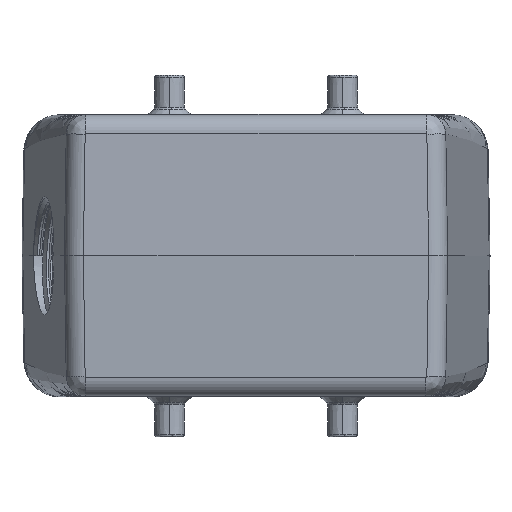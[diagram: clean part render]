
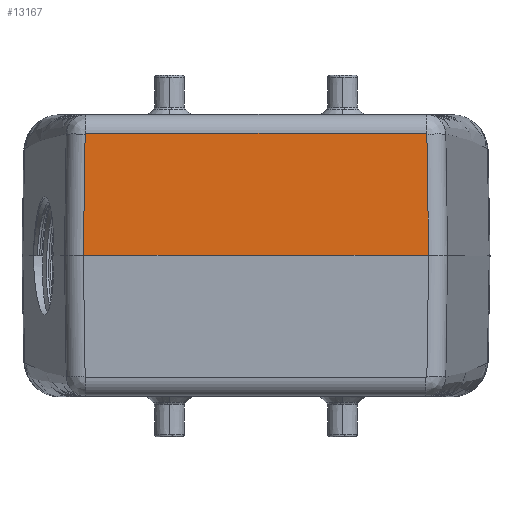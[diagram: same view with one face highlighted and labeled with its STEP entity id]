
A CAD part, top view. The second image highlights one B-rep face of the part: STEP entity #13167.
In plain terms, the highlighted planar face has unit normal (0, 0.018, 1).
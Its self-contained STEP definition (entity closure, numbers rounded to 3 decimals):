
#429 = VERTEX_POINT ( 'NONE', #13925 ) ;
#1517 = EDGE_CURVE ( 'NONE', #14905, #2759, #5949, .T. ) ;
#2146 = LINE ( 'NONE', #25613, #14192 ) ;
#2731 = CARTESIAN_POINT ( 'NONE',  ( 26.557, 19.052, 59.667 ) ) ;
#2759 = VERTEX_POINT ( 'NONE', #3772 ) ;
#3320 = DIRECTION ( 'NONE',  ( 0., 0.017, 1. ) ) ;
#3772 = CARTESIAN_POINT ( 'NONE',  ( 10.25, 0., 60. ) ) ;
#4007 = EDGE_CURVE ( 'NONE', #24936, #14988, #15977, .T. ) ;
#4595 = CARTESIAN_POINT ( 'NONE',  ( 26.521, 19.052, 59.667 ) ) ;
#4718 = EDGE_CURVE ( 'NONE', #429, #26034, #2146, .T. ) ;
#5235 = ORIENTED_EDGE ( 'NONE', *, *, #23714, .T. ) ;
#5316 = ORIENTED_EDGE ( 'NONE', *, *, #4007, .T. ) ;
#5949 = LINE ( 'NONE', #12625, #23378 ) ;
#6809 = CARTESIAN_POINT ( 'NONE',  ( 26.653, 18.923, 59.67 ) ) ;
#7086 = EDGE_CURVE ( 'NONE', #14988, #18813, #16962, .T. ) ;
#7542 = B_SPLINE_CURVE_WITH_KNOTS ( 'NONE', 3,
 ( #14595, #20675, #24403, #22466 ),
 .UNSPECIFIED., .F., .F.,
 ( 4, 4 ),
 ( 0., 1. ),
 .UNSPECIFIED. ) ;
#7599 = CARTESIAN_POINT ( 'NONE',  ( -26.589, 19.039, 59.668 ) ) ;
#7764 = CARTESIAN_POINT ( 'NONE',  ( -26.555, 19.052, 59.667 ) ) ;
#8321 = FACE_OUTER_BOUND ( 'NONE', #14455, .T. ) ;
#8432 = DIRECTION ( 'NONE',  ( 1., 0., 0. ) ) ;
#9271 = ORIENTED_EDGE ( 'NONE', *, *, #1517, .F. ) ;
#10613 = B_SPLINE_CURVE_WITH_KNOTS ( 'NONE', 3,
 ( #25720, #15633, #19674, #7599, #7764, #25805 ),
 .UNSPECIFIED., .F., .F.,
 ( 4, 2, 4 ),
 ( 0., 0.5, 1. ),
 .UNSPECIFIED. ) ;
#11169 = AXIS2_PLACEMENT_3D ( 'NONE', #17298, #3320, #17558 ) ;
#11570 = VERTEX_POINT ( 'NONE', #25679 ) ;
#11632 = PLANE ( 'NONE',  #11169 ) ;
#12177 = CARTESIAN_POINT ( 'NONE',  ( -26.838, 6.308, 59.89 ) ) ;
#12191 = LINE ( 'NONE', #14526, #12495 ) ;
#12495 = VECTOR ( 'NONE', #8432, 1000. ) ;
#12625 = CARTESIAN_POINT ( 'NONE',  ( -76.447, 0., 60. ) ) ;
#12651 = CARTESIAN_POINT ( 'NONE',  ( -26.521, 19.052, 59.667 ) ) ;
#12739 = EDGE_CURVE ( 'NONE', #24936, #14905, #7542, .T. ) ;
#13004 = CARTESIAN_POINT ( 'NONE',  ( 26.639, 18.99, 59.669 ) ) ;
#13167 = ADVANCED_FACE ( 'NONE', ( #8321 ), #11632, .T. ) ;
#13348 = CARTESIAN_POINT ( 'NONE',  ( 26.93, 0., 60. ) ) ;
#13863 = CARTESIAN_POINT ( 'NONE',  ( -26.93, 0., 60. ) ) ;
#13925 = CARTESIAN_POINT ( 'NONE',  ( -10.25, 0., 60. ) ) ;
#14192 = VECTOR ( 'NONE', #15191, 1000. ) ;
#14455 = EDGE_LOOP ( 'NONE', ( #5235, #9271, #22294, #5316, #20778, #14696, #25664, #17970 ) ) ;
#14526 = CARTESIAN_POINT ( 'NONE',  ( -10.25, 0., 60. ) ) ;
#14595 = CARTESIAN_POINT ( 'NONE',  ( 26.653, 18.923, 59.67 ) ) ;
#14696 = ORIENTED_EDGE ( 'NONE', *, *, #17789, .F. ) ;
#14905 = VERTEX_POINT ( 'NONE', #13348 ) ;
#14988 = VERTEX_POINT ( 'NONE', #19761 ) ;
#15031 = CARTESIAN_POINT ( 'NONE',  ( 26.652, 18.959, 59.669 ) ) ;
#15191 = DIRECTION ( 'NONE',  ( -1., 0., 0. ) ) ;
#15633 = CARTESIAN_POINT ( 'NONE',  ( -26.652, 18.957, 59.669 ) ) ;
#15821 = CARTESIAN_POINT ( 'NONE',  ( 26.653, 18.923, 59.67 ) ) ;
#15868 = CARTESIAN_POINT ( 'NONE',  ( -26.93, 0., 60. ) ) ;
#15977 = B_SPLINE_CURVE_WITH_KNOTS ( 'NONE', 3,
 ( #6809, #15031, #13004, #22814, #2731, #4595 ),
 .UNSPECIFIED., .F., .F.,
 ( 4, 2, 4 ),
 ( 0., 0.5, 1. ),
 .UNSPECIFIED. ) ;
#16058 = CARTESIAN_POINT ( 'NONE',  ( -26.745, 12.615, 59.78 ) ) ;
#16962 = LINE ( 'NONE', #20495, #24886 ) ;
#17298 = CARTESIAN_POINT ( 'NONE',  ( -76.447, 0., 60. ) ) ;
#17558 = DIRECTION ( 'NONE',  ( 0., -1., 0.017 ) ) ;
#17789 = EDGE_CURVE ( 'NONE', #11570, #18813, #10613, .T. ) ;
#17970 = ORIENTED_EDGE ( 'NONE', *, *, #4718, .F. ) ;
#18813 = VERTEX_POINT ( 'NONE', #12651 ) ;
#19674 = CARTESIAN_POINT ( 'NONE',  ( -26.638, 18.991, 59.669 ) ) ;
#19761 = CARTESIAN_POINT ( 'NONE',  ( 26.521, 19.052, 59.667 ) ) ;
#20183 = CARTESIAN_POINT ( 'NONE',  ( -26.653, 18.923, 59.67 ) ) ;
#20401 = DIRECTION ( 'NONE',  ( -1., 0., 0. ) ) ;
#20495 = CARTESIAN_POINT ( 'NONE',  ( -76.447, 19.052, 59.667 ) ) ;
#20675 = CARTESIAN_POINT ( 'NONE',  ( 26.745, 12.615, 59.78 ) ) ;
#20778 = ORIENTED_EDGE ( 'NONE', *, *, #7086, .T. ) ;
#22037 = EDGE_CURVE ( 'NONE', #26034, #11570, #23228, .T. ) ;
#22294 = ORIENTED_EDGE ( 'NONE', *, *, #12739, .F. ) ;
#22466 = CARTESIAN_POINT ( 'NONE',  ( 26.93, 0., 60. ) ) ;
#22518 = DIRECTION ( 'NONE',  ( -1., 0., 0. ) ) ;
#22814 = CARTESIAN_POINT ( 'NONE',  ( 26.588, 19.04, 59.668 ) ) ;
#23228 = B_SPLINE_CURVE_WITH_KNOTS ( 'NONE', 3,
 ( #13863, #12177, #16058, #20183 ),
 .UNSPECIFIED., .F., .F.,
 ( 4, 4 ),
 ( 0., 1. ),
 .UNSPECIFIED. ) ;
#23378 = VECTOR ( 'NONE', #22518, 1000. ) ;
#23714 = EDGE_CURVE ( 'NONE', #429, #2759, #12191, .T. ) ;
#24403 = CARTESIAN_POINT ( 'NONE',  ( 26.838, 6.308, 59.89 ) ) ;
#24886 = VECTOR ( 'NONE', #20401, 1000. ) ;
#24936 = VERTEX_POINT ( 'NONE', #15821 ) ;
#25613 = CARTESIAN_POINT ( 'NONE',  ( -76.447, 0., 60. ) ) ;
#25664 = ORIENTED_EDGE ( 'NONE', *, *, #22037, .F. ) ;
#25679 = CARTESIAN_POINT ( 'NONE',  ( -26.653, 18.923, 59.67 ) ) ;
#25720 = CARTESIAN_POINT ( 'NONE',  ( -26.653, 18.923, 59.67 ) ) ;
#25805 = CARTESIAN_POINT ( 'NONE',  ( -26.521, 19.052, 59.667 ) ) ;
#26034 = VERTEX_POINT ( 'NONE', #15868 ) ;
